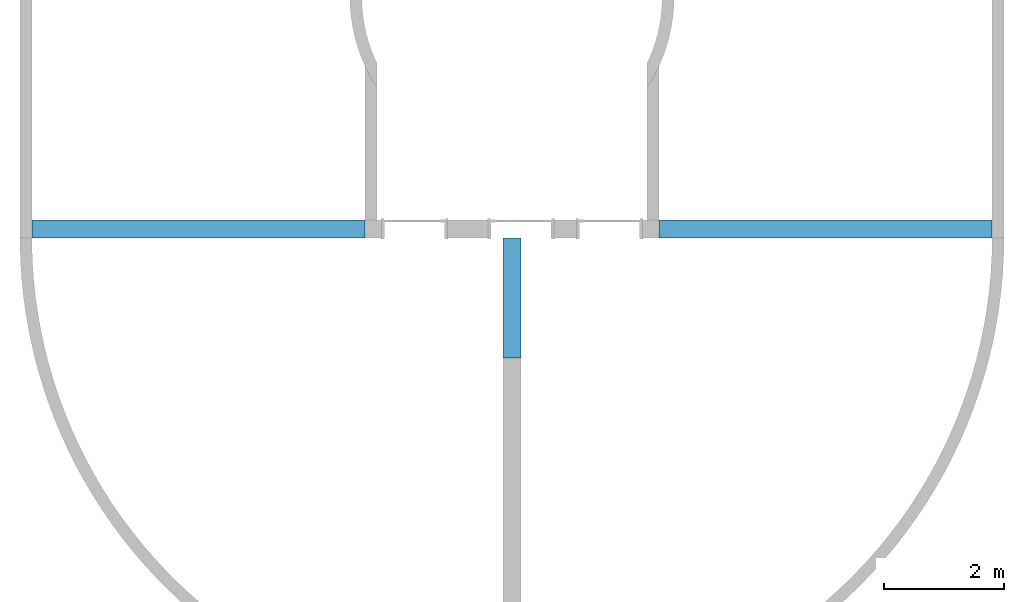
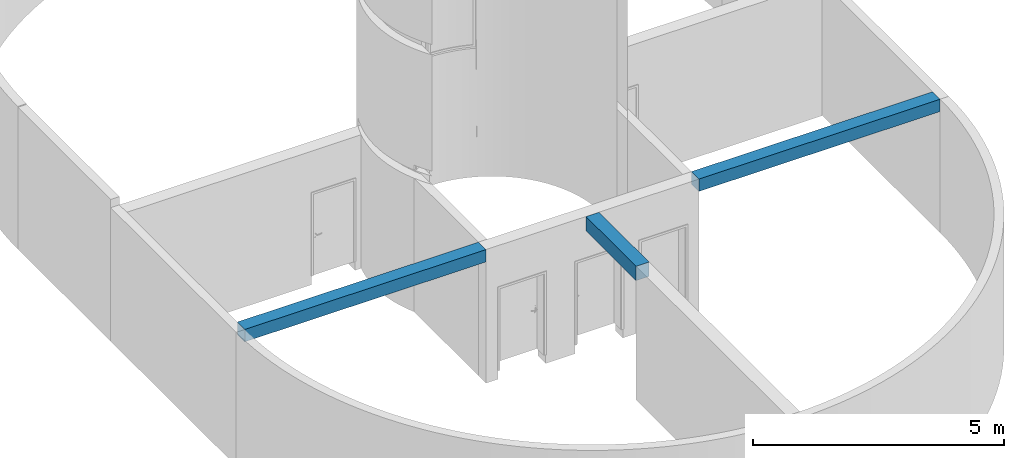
# One storey, part 1 of 8: 3 beams.
"""IFC4 building model written with IfcOpenShell, lengths in millimetres."""

from ifc_helpers import new_model, entity, si_unit, converted_unit, derived_unit, direction, frame, origin_with_axes, place, context, subcontext, project, spatial, polygons, material, type_object, element, save


model = new_model("IFC4")

# Units and contexts
model_context = context("Model", 3, precision=0.01, world=origin_with_axes(), true_north=direction((0.0, 1.0)))
body_context = subcontext(model_context, "Body", "Model", "MODEL_VIEW")
ifc_project = project(units=[si_unit("LENGTHUNIT", "METRE", prefix="MILLI"), si_unit("AREAUNIT", "SQUARE_METRE"), si_unit("VOLUMEUNIT", "CUBIC_METRE"), converted_unit("PLANEANGLEUNIT", "DEGREE", entity("IfcPlaneAngleMeasure", 0.0174532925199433), si_unit("PLANEANGLEUNIT", "RADIAN"), dimensions=[0, 0, 0, 0, 0, 0, 0]), converted_unit("TIMEUNIT", "Year", entity("IfcTimeMeasure", 31557600.0), si_unit("TIMEUNIT", "SECOND"), dimensions=[0, 0, 1, 0, 0, 0, 0]), si_unit("MASSUNIT", "GRAM", prefix="KILO"), si_unit("THERMODYNAMICTEMPERATUREUNIT", "DEGREE_CELSIUS"), si_unit("LUMINOUSINTENSITYUNIT", "LUMEN"), si_unit("ENERGYUNIT", "JOULE", prefix="MEGA"), derived_unit("THERMALCONDUCTANCEUNIT", [(si_unit("POWERUNIT", "WATT"), 1), (si_unit("LENGTHUNIT", "METRE"), -1), (si_unit("THERMODYNAMICTEMPERATUREUNIT", "KELVIN"), -1)]), derived_unit("SPECIFICHEATCAPACITYUNIT", [(si_unit("ENERGYUNIT", "JOULE"), 1), (si_unit("MASSUNIT", "GRAM", prefix="KILO"), -1), (si_unit("THERMODYNAMICTEMPERATUREUNIT", "KELVIN"), -1)]), derived_unit("MASSDENSITYUNIT", [(si_unit("MASSUNIT", "GRAM", prefix="KILO"), 1), (si_unit("VOLUMEUNIT", "CUBIC_METRE"), -1)])], contexts=[model_context])

# Site, building, storey
site_placement = place(None, origin_with_axes())
site = spatial("IfcSite", under=ifc_project, at=site_placement, Name="Exteriér", CompositionType="ELEMENT")
building_placement = place(site_placement, origin_with_axes())
building = spatial("IfcBuilding", under=site, at=building_placement, Name="Univerzitní lezecké centrum", CompositionType="ELEMENT")
storey_placement = place(building_placement, frame((0.0, 0.0, -3350.0), z_axis=(0.0, 0.0, 1.0), x_axis=(1.0, 0.0, 0.0)))
storey = spatial("IfcBuildingStorey", under=building, at=storey_placement, Name="1.PP", CompositionType="ELEMENT", Elevation=-3350.0)

# Beams
ifc_material = material(Name="Beton vyztužený")
beam_type_1 = type_object("IfcBeamType", Name="Beton vyztužený 300 x 350", PredefinedType="BEAM")
beam_1_placement = place(storey_placement, frame((2449.851648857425, -2299.739482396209, 3030.0), z_axis=(0.0, 0.0, 1.0), x_axis=(1.0, 0.0, 0.0)))
element("IfcBeam", 1, at=beam_1_placement, inside=storey, type_object=beam_type_1, material=ifc_material, Name="St04", PredefinedType="BEAM", context=body_context, shape_type="Tessellation", body=[
    polygons([(149.9999999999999, 1999.739482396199, -350.0000000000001), (149.9999999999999, 0.0, -350.0000000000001), (-149.9999999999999, 0.0, -350.0000000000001), (-149.9999999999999, 1999.739482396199, -350.0000000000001), (149.9999999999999, 1999.739482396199, 0.0), (149.9999999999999, 0.0, 0.0), (-149.9999999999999, 0.0, 0.0), (-149.9999999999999, 1999.739482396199, 0.0)], [[[1, 2, 3, 4]], [[5, 6, 2, 1]], [[2, 6, 7, 3]], [[4, 3, 7, 8]], [[8, 5, 1, 4]], [[8, 7, 6, 5]]], closed=True),
])
beam_type_2 = type_object("IfcBeamType", Name="Beton vyztužený 300 x 300", PredefinedType="BEAM")
beam_2_placement = place(storey_placement, frame((-0.2478638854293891, -150.0000000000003, 3029.999999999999), z_axis=(0.0, 0.0, 1.0), x_axis=(0.0, 1.0, 0.0)))
element("IfcBeam", 2, at=beam_2_placement, inside=storey, type_object=beam_type_2, material=ifc_material, Name="St04", PredefinedType="BEAM", context=body_context, shape_type="Tessellation", body=[
    polygons([(149.9999999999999, 0.0, 0.0), (149.9999999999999, 0.0, -299.9999999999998), (150.0, 5549.900487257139, -299.9999999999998), (150.0, 5549.900487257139, 0.0), (-149.9999999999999, 0.0, 0.0), (-149.9999999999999, 0.0, -299.9999999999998), (-150.0000000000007, 5549.900487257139, -300.0000000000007), (-150.0000000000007, 5549.900487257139, 0.0)], [[[1, 2, 3, 4]], [[2, 1, 5, 6]], [[2, 6, 7, 3]], [[3, 7, 8, 4]], [[5, 1, 4, 8]], [[6, 5, 8, 7]]], closed=True),
])
beam_3_placement = place(storey_placement, frame((10649.85164885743, -150.0000000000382, 3030.0), z_axis=(0.0, 0.0, 1.0), x_axis=(0.0, 1.0, 0.0)))
element("IfcBeam", 3, at=beam_3_placement, inside=storey, type_object=beam_type_2, material=ifc_material, Name="St04", PredefinedType="BEAM", context=body_context, shape_type="Tessellation", body=[
    polygons([(150.0, 5749.900487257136, 0.0), (-149.9999999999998, 5749.900487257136, 0.0), (-149.999999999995, 200.0000000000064, 0.0), (150.0000000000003, 200.0000000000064, 0.0), (150.0, 5749.900487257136, -299.9999999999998), (-149.9999999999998, 5749.900487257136, -299.9999999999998), (-149.999999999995, 200.0000000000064, -299.9999999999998), (149.9999999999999, 200.0000000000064, -299.9999999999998)], [[[1, 2, 3, 4]], [[2, 1, 5, 6]], [[2, 6, 7, 3]], [[3, 7, 8, 4]], [[5, 1, 4, 8]], [[6, 5, 8, 7]]], closed=True),
])

save(model, "model.ifc")
